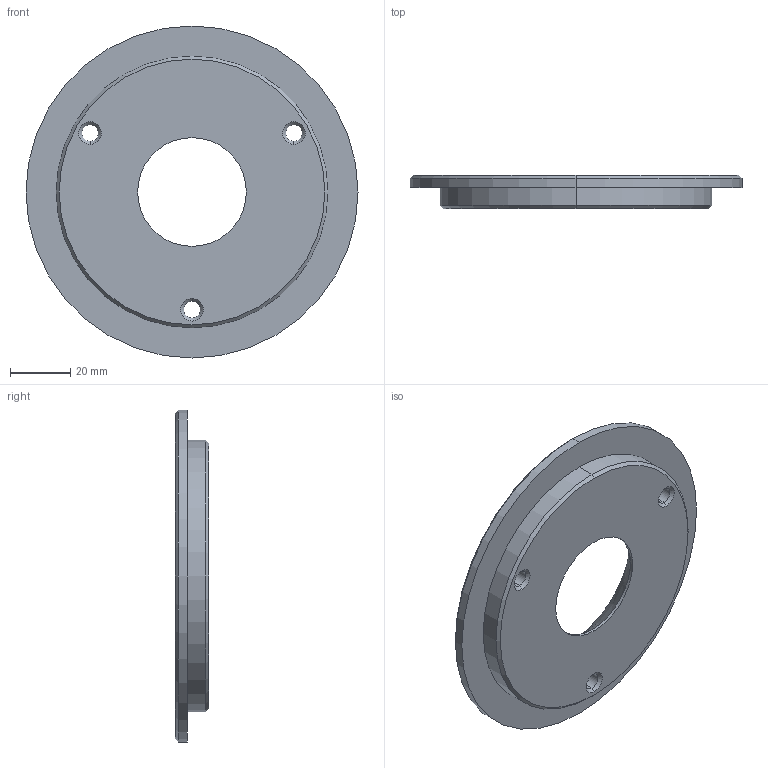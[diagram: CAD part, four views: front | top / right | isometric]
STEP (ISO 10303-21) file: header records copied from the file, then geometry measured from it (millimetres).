
FILE_DESCRIPTION (( 'STEP AP214' ), '1' );
FILE_NAME ('BR1000-110x11.STEP', '2020-02-05T12:20:37', ( 'August' ), ( '' ), 'SwSTEP 2.0', 'SolidWorks 2018', '' );
FILE_SCHEMA (( 'AUTOMOTIVE_DESIGN' ));
Length unit declared in the file: millimetre
Products named in the file (1): BR1000-110x11
Bounding box: 110 x 11 x 110 mm (x, y, z)
Volume: 62696 mm3; surface area: 21233.4 mm2
Topology: 1 solids, 1 shells, 42 faces, 90 edges, 54 vertices
Faces by surface type: cone 18, cylinder 18, plane 6
Entity records: 1194 total; most frequent: DIRECTION 230, CARTESIAN_POINT 187, ORIENTED_EDGE 180, AXIS2_PLACEMENT_3D 97, EDGE_CURVE 90, CIRCLE 54, EDGE_LOOP 54, VERTEX_POINT 54
